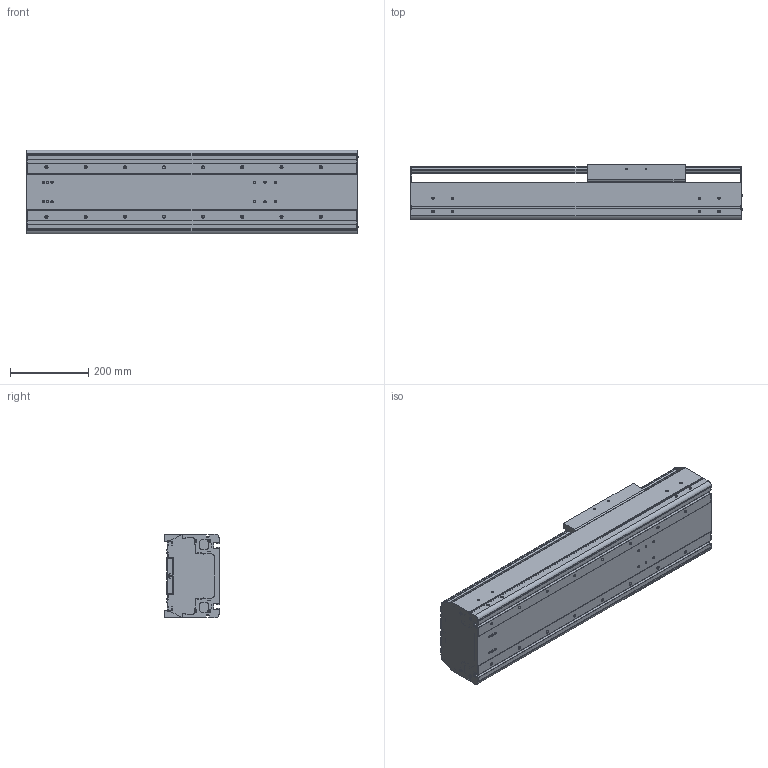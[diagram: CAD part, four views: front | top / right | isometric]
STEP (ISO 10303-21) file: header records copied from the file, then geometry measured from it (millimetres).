
FILE_DESCRIPTION((''),'2;1');
FILE_NAME('BE60G-ST-M_B-40_IGS_PRT','2017-06-18T',(' '),(''),'PRO/ENGINEER BY PARAMETRIC TECHNOLOGY CORPORATION, 2015030','PRO/ENGINEER BY PARAMETRIC TECHNOLOGY CORPORATION, 2015030','');
FILE_SCHEMA(('CONFIG_CONTROL_DESIGN'));
Length unit declared in the file: millimetre
Products named in the file (1): BE60G-ST-M_B-40_IGS_PRT
Bounding box: 847.4 x 140 x 214 mm (x, y, z)
Volume: 7233162.8 mm3; surface area: 1920733.1 mm2
Topology: 2 solids, 110 shells, 1384 faces, 3820 edges, 2502 vertices
Faces by surface type: cylinder 672, plane 580, cone 84, sphere 24, torus 24
Entity records: 45576 total; most frequent: CARTESIAN_POINT 9806, DIRECTION 7594, ORIENTED_EDGE 7056, EDGE_CURVE 3740, AXIS2_PLACEMENT_3D 2795, VERTEX_POINT 2502, VECTOR 2004, LINE 2004
